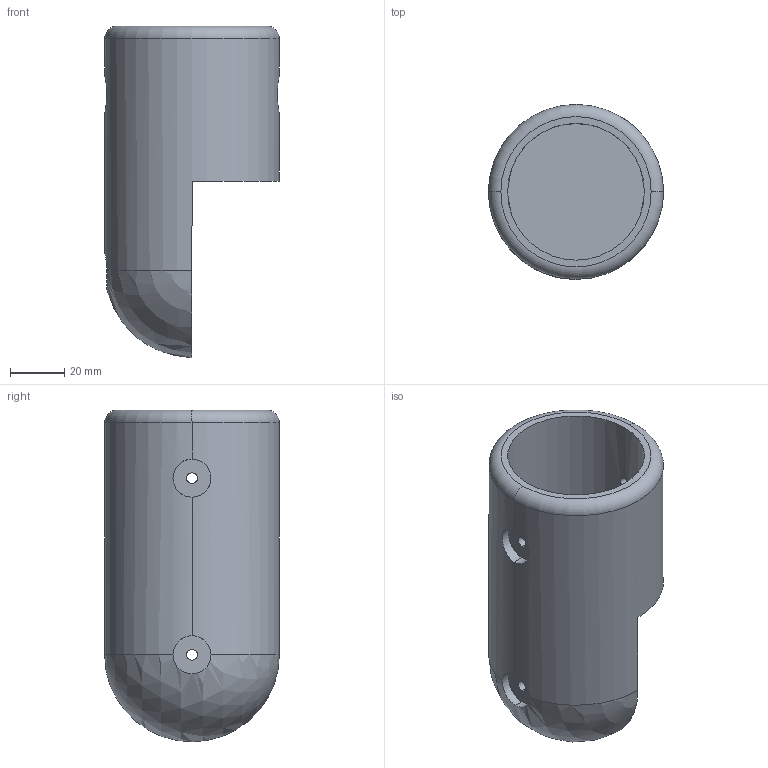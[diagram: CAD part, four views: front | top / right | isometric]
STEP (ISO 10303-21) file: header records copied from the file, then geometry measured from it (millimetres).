
FILE_DESCRIPTION (( 'STEP AP203' ), '1' );
FILE_NAME ('KIE_018.A14.STEP', '2025-01-22T19:32:51', ( '' ), ( '' ), 'SwSTEP 2.0', 'SolidWorks 2023', '' );
FILE_SCHEMA (( 'CONFIG_CONTROL_DESIGN' ));
Length unit declared in the file: millimetre
Products named in the file (1): KIE_018.A14
Bounding box: 64.3 x 64.3 x 122 mm (x, y, z)
Volume: 170851.6 mm3; surface area: 35008.1 mm2
Topology: 1 solids, 1 shells, 39 faces, 219 edges, 192 vertices
Faces by surface type: cylinder 29, plane 7, torus 2, sphere 1
Entity records: 5010 total; most frequent: CARTESIAN_POINT 3424, ORIENTED_EDGE 434, EDGE_CURVE 217, VERTEX_POINT 192, B_SPLINE_CURVE_WITH_KNOTS 165, DIRECTION 161, AXIS2_PLACEMENT_3D 69, EDGE_LOOP 57
